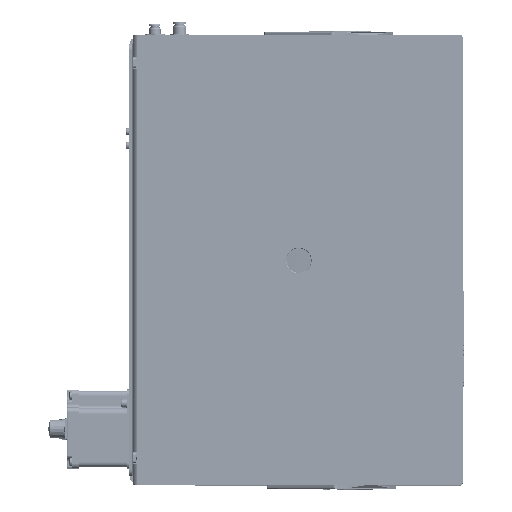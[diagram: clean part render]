
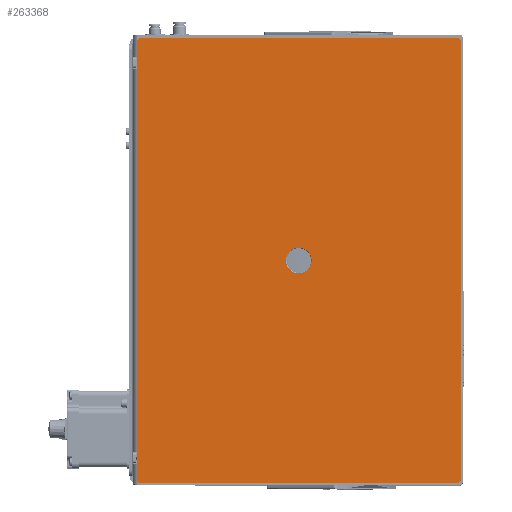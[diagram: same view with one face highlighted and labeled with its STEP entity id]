
A CAD part, top view. The second image highlights one B-rep face of the part: STEP entity #263368.
In plain terms, the highlighted planar face has unit normal (0, 0, 1).
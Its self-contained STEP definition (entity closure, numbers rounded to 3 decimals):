
#28054=LINE($,#451301,#54675);
#28055=LINE($,#451303,#54676);
#28056=LINE($,#451305,#54677);
#28057=LINE($,#451307,#54678);
#28058=LINE($,#451309,#54679);
#28059=LINE($,#451311,#54680);
#28060=LINE($,#451313,#54681);
#28061=LINE($,#451314,#54682);
#54675=VECTOR($,#331215,2.828);
#54676=VECTOR($,#331216,324.);
#54677=VECTOR($,#331217,2.828);
#54678=VECTOR($,#331218,446.);
#54679=VECTOR($,#331219,2.828);
#54680=VECTOR($,#331220,324.);
#54681=VECTOR($,#331221,2.828);
#54682=VECTOR($,#331222,446.);
#62879=FACE_BOUND($,#98610,.T.);
#71612=PLANE($,#280152);
#83548=FACE_OUTER_BOUND($,#98609,.T.);
#98609=EDGE_LOOP($,(#221126,#221127,#221128,#221129,#221130,#221131,#221132,
#221133));
#98610=EDGE_LOOP($,(#221134));
#107204=CIRCLE($,#280151,13.);
#126662=VERTEX_POINT($,#451296);
#126663=VERTEX_POINT($,#451299);
#126664=VERTEX_POINT($,#451300);
#126665=VERTEX_POINT($,#451302);
#126666=VERTEX_POINT($,#451304);
#126667=VERTEX_POINT($,#451306);
#126668=VERTEX_POINT($,#451308);
#126669=VERTEX_POINT($,#451310);
#126670=VERTEX_POINT($,#451312);
#159432=EDGE_CURVE($,#126662,#126662,#107204,.T.);
#159433=EDGE_CURVE($,#126663,#126664,#28054,.T.);
#159434=EDGE_CURVE($,#126665,#126663,#28055,.T.);
#159435=EDGE_CURVE($,#126666,#126665,#28056,.T.);
#159436=EDGE_CURVE($,#126667,#126666,#28057,.T.);
#159437=EDGE_CURVE($,#126668,#126667,#28058,.T.);
#159438=EDGE_CURVE($,#126669,#126668,#28059,.T.);
#159439=EDGE_CURVE($,#126670,#126669,#28060,.T.);
#159440=EDGE_CURVE($,#126664,#126670,#28061,.T.);
#221126=ORIENTED_EDGE($,*,*,#159433,.F.);
#221127=ORIENTED_EDGE($,*,*,#159434,.F.);
#221128=ORIENTED_EDGE($,*,*,#159435,.F.);
#221129=ORIENTED_EDGE($,*,*,#159436,.F.);
#221130=ORIENTED_EDGE($,*,*,#159437,.F.);
#221131=ORIENTED_EDGE($,*,*,#159438,.F.);
#221132=ORIENTED_EDGE($,*,*,#159439,.F.);
#221133=ORIENTED_EDGE($,*,*,#159440,.F.);
#221134=ORIENTED_EDGE($,*,*,#159432,.F.);
#263368=ADVANCED_FACE($,(#83548,#62879),#71612,.T.);
#280151=AXIS2_PLACEMENT_3D($,#451297,#331211,#331212);
#280152=AXIS2_PLACEMENT_3D($,#451298,#331213,#331214);
#331211=DIRECTION('center_axis',(0.,0.,
1.));
#331212=DIRECTION('ref_axis',(-1.,0.,0.));
#331213=DIRECTION('center_axis',(0.,0.,
1.));
#331214=DIRECTION('ref_axis',(1.,0.,0.));
#331215=DIRECTION($,(-0.707,0.707,0.));
#331216=DIRECTION($,(-1.,0.,0.));
#331217=DIRECTION($,(-0.707,-0.707,0.));
#331218=DIRECTION($,(0.,-1.,0.));
#331219=DIRECTION($,(0.707,-0.707,0.));
#331220=DIRECTION($,(1.,0.,0.));
#331221=DIRECTION($,(0.707,0.707,0.));
#331222=DIRECTION($,(0.,1.,0.));
#451296=CARTESIAN_POINT('',(335.826,266.303,261.301));
#451297=CARTESIAN_POINT('Origin',(322.826,266.303,261.301));
#451298=CARTESIAN_POINT('Origin',(322.826,266.303,261.301));
#451299=CARTESIAN_POINT('',(160.826,41.303,261.301));
#451300=CARTESIAN_POINT('',(158.826,43.303,261.301));
#451301=CARTESIAN_POINT($,(160.826,41.303,261.301));
#451302=CARTESIAN_POINT('',(484.826,41.303,261.301));
#451303=CARTESIAN_POINT($,(484.826,41.303,261.301));
#451304=CARTESIAN_POINT('',(486.826,43.303,261.301));
#451305=CARTESIAN_POINT($,(486.826,43.303,261.301));
#451306=CARTESIAN_POINT('',(486.826,489.303,261.301));
#451307=CARTESIAN_POINT($,(486.826,489.303,261.301));
#451308=CARTESIAN_POINT('',(484.826,491.303,261.301));
#451309=CARTESIAN_POINT($,(484.826,491.303,261.301));
#451310=CARTESIAN_POINT('',(160.826,491.303,261.301));
#451311=CARTESIAN_POINT($,(160.826,491.303,261.301));
#451312=CARTESIAN_POINT('',(158.826,489.303,261.301));
#451313=CARTESIAN_POINT($,(158.826,489.303,261.301));
#451314=CARTESIAN_POINT($,(158.826,43.303,261.301));
